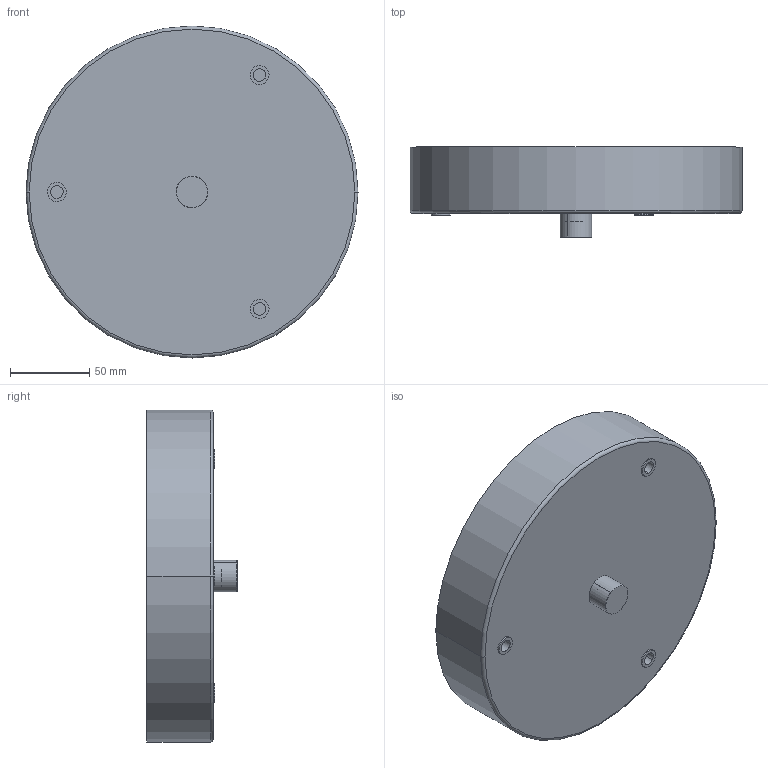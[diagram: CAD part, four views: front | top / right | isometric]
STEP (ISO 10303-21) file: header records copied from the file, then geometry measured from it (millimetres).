
FILE_DESCRIPTION (( 'STEP AP203' ), '1' );
FILE_NAME ('ACCANOPYTO003XX.STEP', '2023-09-14T07:12:45', ( '' ), ( '' ), 'SwSTEP 2.0', 'SolidWorks 2023', '' );
FILE_SCHEMA (( 'CONFIG_CONTROL_DESIGN' ));
Length unit declared in the file: millimetre
Products named in the file (5): WSCM2A0003-0200-00; WSCM2F0022-0100-02; ACCANOPYTO003XX; WSOT12121---------; WSCM2C0155-0100-02
Assembly tree (6 placements, depth 2):
  ACCANOPYTO003XX
    WSCM2F0022-0100-02
    WSOT12121---------  x3
    WSCM2A0003-0200-00
    WSCM2C0155-0100-02
Bounding box: 210 x 57 x 210 mm (x, y, z)
Volume: 113563.5 mm3; surface area: 193025.4 mm2
Topology: 6 solids, 6 shells, 131 faces, 304 edges, 191 vertices
Faces by surface type: cylinder 72, cone 24, plane 23, torus 12
Entity records: 3957 total; most frequent: DIRECTION 680, CARTESIAN_POINT 555, ORIENTED_EDGE 532, AXIS2_PLACEMENT_3D 292, EDGE_CURVE 266, CIRCLE 170, VERTEX_POINT 167, EDGE_LOOP 153
